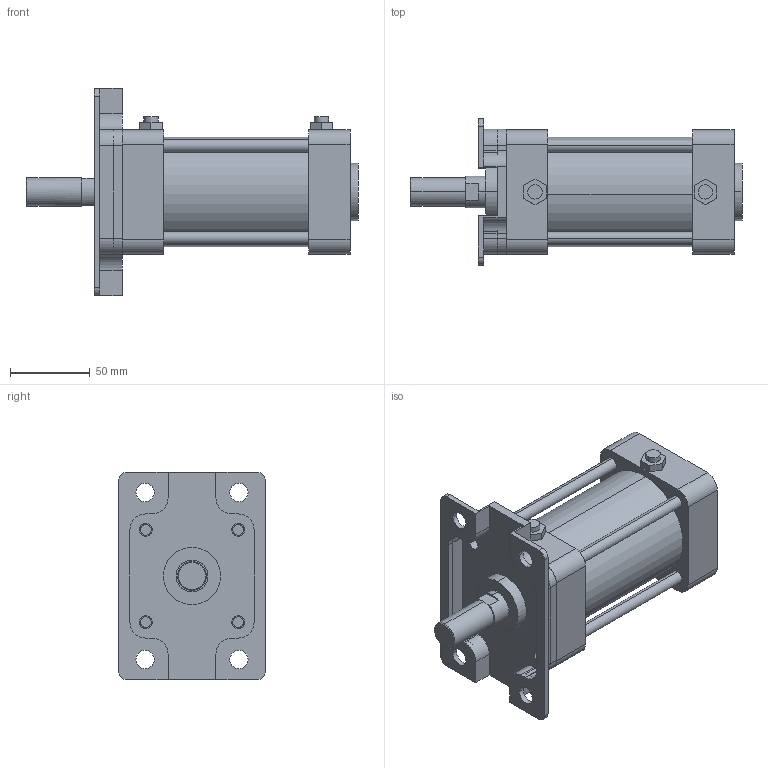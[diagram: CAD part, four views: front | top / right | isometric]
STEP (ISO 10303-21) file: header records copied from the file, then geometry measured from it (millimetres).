
FILE_DESCRIPTION (( 'STEP AP203' ), '1' );
FILE_NAME ('KG2-63-50-A.STEP', '2016-04-01T08:14:30', ( '' ), ( '' ), 'SwSTEP 2.0', 'SolidWorks 2014', '' );
FILE_SCHEMA (( 'CONFIG_CONTROL_DESIGN' ));
Length unit declared in the file: millimetre
Products named in the file (7): KGLH2-63-50; KG2-63-After; KG2-63-50-A; K-63-AB
Assembly tree (16 placements, depth 2):
  KG2-63-50-A
    KG2-63-After
    KGLH2-63-50
    (unnamed)
    (unnamed)  x4
    (unnamed)  x8
    K-63-AB
Bounding box: 208.5 x 92 x 130 mm (x, y, z)
Volume: 652262.8 mm3; surface area: 151697.9 mm2
Topology: 16 solids, 16 shells, 383 faces, 944 edges, 608 vertices
Faces by surface type: plane 167, cylinder 158, torus 32, cone 26
Entity records: 10222 total; most frequent: CARTESIAN_POINT 1787, DIRECTION 1628, ORIENTED_EDGE 1508, EDGE_CURVE 754, AXIS2_PLACEMENT_3D 594, VERTEX_POINT 498, VECTOR 440, LINE 440
